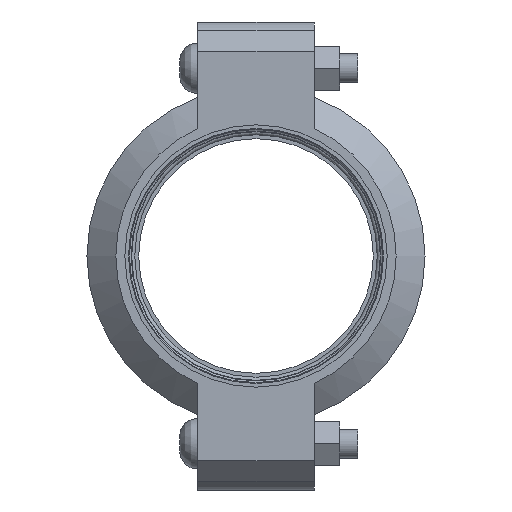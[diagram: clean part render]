
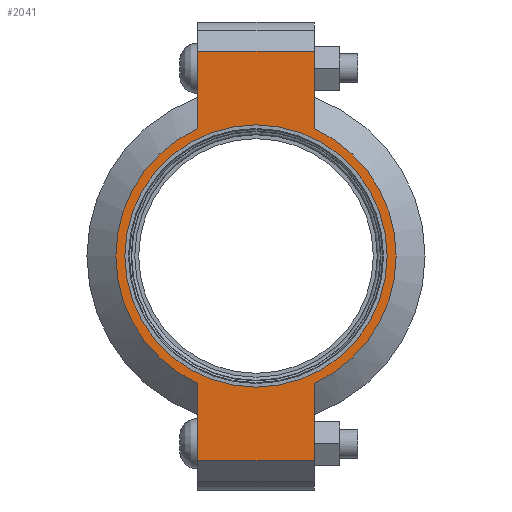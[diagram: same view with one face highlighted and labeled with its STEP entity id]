
A CAD part, left-side view. The second image highlights one B-rep face of the part: STEP entity #2041.
In plain terms, the highlighted planar face has unit normal (-1, 0, 0) as drawn and (0, 0, 1) by its records, which use the part's own axes.
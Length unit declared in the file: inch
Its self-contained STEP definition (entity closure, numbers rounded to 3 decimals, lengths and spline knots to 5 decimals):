
#174=LINE('',#3640,#273);
#182=LINE('',#3676,#281);
#189=LINE('',#3697,#288);
#198=LINE('',#3729,#297);
#199=LINE('',#3733,#298);
#200=LINE('',#3735,#299);
#273=VECTOR('',#2982,0.3937);
#281=VECTOR('',#2998,0.3937);
#288=VECTOR('',#3017,0.3937);
#297=VECTOR('',#3042,0.3937);
#298=VECTOR('',#3047,0.3937);
#299=VECTOR('',#3048,0.3937);
#359=FACE_BOUND('',#629,.T.);
#405=PLANE('',#2406);
#501=FACE_OUTER_BOUND('',#628,.T.);
#628=EDGE_LOOP('',(#1770,#1771,#1772,#1773,#1774,#1775,#1776,#1777));
#629=EDGE_LOOP('',(#1778));
#776=CIRCLE('',#2348,2.25);
#802=CIRCLE('',#2407,2.405);
#803=CIRCLE('',#2408,2.405);
#927=VERTEX_POINT('',#3456);
#970=VERTEX_POINT('',#3637);
#971=VERTEX_POINT('',#3639);
#982=VERTEX_POINT('',#3671);
#983=VERTEX_POINT('',#3675);
#990=VERTEX_POINT('',#3694);
#991=VERTEX_POINT('',#3696);
#1001=VERTEX_POINT('',#3732);
#1002=VERTEX_POINT('',#3734);
#1164=EDGE_CURVE('',#927,#927,#776,.T.);
#1225=EDGE_CURVE('',#971,#970,#174,.T.);
#1239=EDGE_CURVE('',#983,#982,#182,.T.);
#1249=EDGE_CURVE('',#991,#990,#189,.T.);
#1264=EDGE_CURVE('',#983,#970,#198,.T.);
#1265=EDGE_CURVE('',#982,#991,#802,.T.);
#1266=EDGE_CURVE('',#1001,#990,#199,.T.);
#1267=EDGE_CURVE('',#1001,#1002,#200,.T.);
#1268=EDGE_CURVE('',#1002,#971,#803,.T.);
#1770=ORIENTED_EDGE('',*,*,#1264,.F.);
#1771=ORIENTED_EDGE('',*,*,#1239,.T.);
#1772=ORIENTED_EDGE('',*,*,#1265,.T.);
#1773=ORIENTED_EDGE('',*,*,#1249,.T.);
#1774=ORIENTED_EDGE('',*,*,#1266,.F.);
#1775=ORIENTED_EDGE('',*,*,#1267,.T.);
#1776=ORIENTED_EDGE('',*,*,#1268,.T.);
#1777=ORIENTED_EDGE('',*,*,#1225,.T.);
#1778=ORIENTED_EDGE('',*,*,#1164,.T.);
#2041=ADVANCED_FACE('',(#501,#359),#405,.T.);
#2348=AXIS2_PLACEMENT_3D('',#3458,#2858,#2859);
#2406=AXIS2_PLACEMENT_3D('',#3730,#3043,#3044);
#2407=AXIS2_PLACEMENT_3D('',#3731,#3045,#3046);
#2408=AXIS2_PLACEMENT_3D('',#3736,#3049,#3050);
#2858=DIRECTION('center_axis',(0.,0.,-1.));
#2859=DIRECTION('ref_axis',(1.,0.,0.));
#2982=DIRECTION('',(1.,0.,0.));
#2998=DIRECTION('',(-1.,0.,0.));
#3017=DIRECTION('',(-1.,0.,0.));
#3042=DIRECTION('',(0.,-1.,0.));
#3043=DIRECTION('center_axis',(0.,0.,1.));
#3044=DIRECTION('ref_axis',(-1.,0.,0.));
#3045=DIRECTION('center_axis',(0.,0.,1.));
#3046=DIRECTION('ref_axis',(1.,0.,0.));
#3047=DIRECTION('',(0.,1.,0.));
#3048=DIRECTION('',(1.,0.,0.));
#3049=DIRECTION('center_axis',(0.,0.,1.));
#3050=DIRECTION('ref_axis',(1.,0.,0.));
#3456=CARTESIAN_POINT('',(-2.25,0.,1.065));
#3458=CARTESIAN_POINT('Origin',(0.,0.,1.065));
#3637=CARTESIAN_POINT('',(3.515,-1.,1.065));
#3639=CARTESIAN_POINT('',(2.18724,-1.,1.065));
#3640=CARTESIAN_POINT('',(4.015,-1.,1.065));
#3671=CARTESIAN_POINT('',(2.18724,1.,1.065));
#3675=CARTESIAN_POINT('',(3.515,1.,1.065));
#3676=CARTESIAN_POINT('',(-4.015,1.,1.065));
#3694=CARTESIAN_POINT('',(-3.515,1.,1.065));
#3696=CARTESIAN_POINT('',(-2.18724,1.,1.065));
#3697=CARTESIAN_POINT('',(-4.015,1.,1.065));
#3729=CARTESIAN_POINT('',(3.515,-0.5,1.065));
#3730=CARTESIAN_POINT('Origin',(0.,0.,
1.065));
#3731=CARTESIAN_POINT('Origin',(0.,0.,1.065));
#3732=CARTESIAN_POINT('',(-3.515,-1.,1.065));
#3733=CARTESIAN_POINT('',(-3.515,0.5,1.065));
#3734=CARTESIAN_POINT('',(-2.18724,-1.,1.065));
#3735=CARTESIAN_POINT('',(4.015,-1.,1.065));
#3736=CARTESIAN_POINT('Origin',(0.,0.,1.065));
